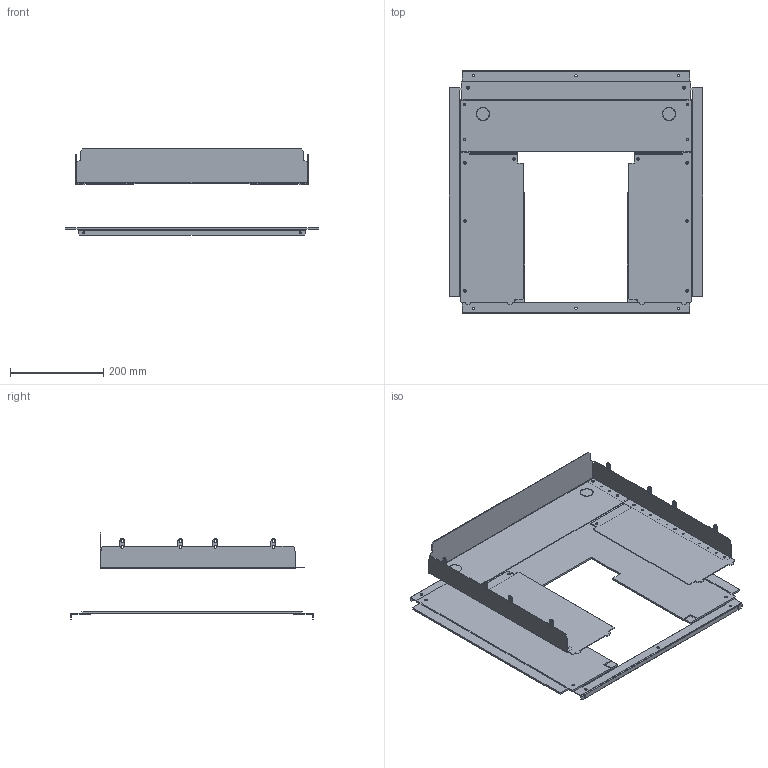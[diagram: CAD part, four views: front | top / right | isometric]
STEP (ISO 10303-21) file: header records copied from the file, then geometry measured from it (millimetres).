
FILE_DESCRIPTION(('CAx-IF Rec.Pracs.---Model Styling and Organization---1.2---2011-12-15','CAx-IF Rec.Pracs.---Geometric and Assembly Validation Properties---4.1---2014-06-16','CAx-IF Rec.Pracs.---PMI Polyline Presentation---2.0---2013-05-24'),'2;1');
FILE_NAME('R5FRC7V61121.stp','2021-07-29T02:04:51+03:00',(''),(''),'STEP Interface 4.4 by CT CoreTechnologie','3D_Evolution4.4 by CT CoreTechnologie','');
FILE_SCHEMA(('AUTOMOTIVE_DESIGN { 1 0 10303 214 1 1 1 1 }'));
Length unit declared in the file: millimetre
Products named in the file (1): R5FRC6V61121
Bounding box: 545 x 521 x 185 mm (x, y, z)
Surface area: 929734.6 mm2 (no closed solid volume)
Topology: 0 solids, 10 shells, 496 faces, 1396 edges, 920 vertices
Faces by surface type: plane 286, cylinder 210
Entity records: 16440 total; most frequent: CARTESIAN_POINT 2813, DIRECTION 2810, ORIENTED_EDGE 2792, EDGE_CURVE 1396, VECTOR 976, LINE 976, VERTEX_POINT 920, AXIS2_PLACEMENT_3D 917
